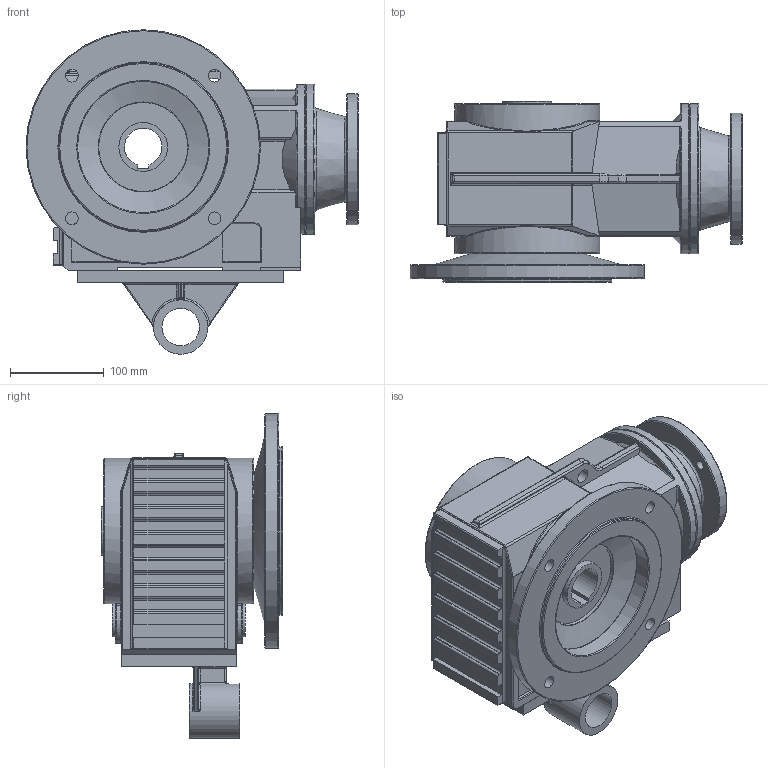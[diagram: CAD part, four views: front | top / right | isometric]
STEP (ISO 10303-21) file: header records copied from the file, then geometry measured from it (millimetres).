
FILE_DESCRIPTION((''),'2;1');
FILE_NAME('F:\PAWEŁ\ZLECENIA\2011 DualSystem\Przekładnie DK\001 Modele\DKAB50_\DK_50_STEP\DK_A_50_AT_AF_63_B5_L56.stp','2012-06-26T18:40:22',('admin'),(''),'Autodesk Inventor 2009','Autodesk Inventor 2009','');
FILE_SCHEMA(('AUTOMOTIVE_DESIGN { 1 0 10303 214 1 1 1 1 }'));
Length unit declared in the file: millimetre
Products named in the file (5): DK_A_50_AT_AF_63_B5_L56 (Poziom szczegółów1); DK_A_50; 63_B5_L56; AF_F_50; AT_50
Assembly tree (4 placements, depth 2):
  DK_A_50_AT_AF_63_B5_L56 (Poziom szczegółów1)
    DK_A_50
    63_B5_L56
    AF_F_50
    AT_50
Bounding box: 354 x 193 x 346 mm (x, y, z)
Volume: 8084889.8 mm3; surface area: 593307.1 mm2
Topology: 4 solids, 4 shells, 510 faces, 1213 edges, 724 vertices
Faces by surface type: cylinder 185, plane 141, bspline 117, torus 57, cone 8, sphere 2
Full cylindrical faces by diameter (mm): 10.106 x4, 12 x4, 15 x1, 25 x1, 36 x1, 40 x1, 52 x1, 58 x1, 90 x1, 95 x1, 110 x1, 140 x2, 155 x2, 160 x2, 180 x1, 250 x1
Entity records: 19834 total; most frequent: CARTESIAN_POINT 8426, DIRECTION 2347, ORIENTED_EDGE 2268, EDGE_CURVE 1134, AXIS2_PLACEMENT_3D 930, VERTEX_POINT 717, EDGE_LOOP 627, FACE_OUTER_BOUND 510
